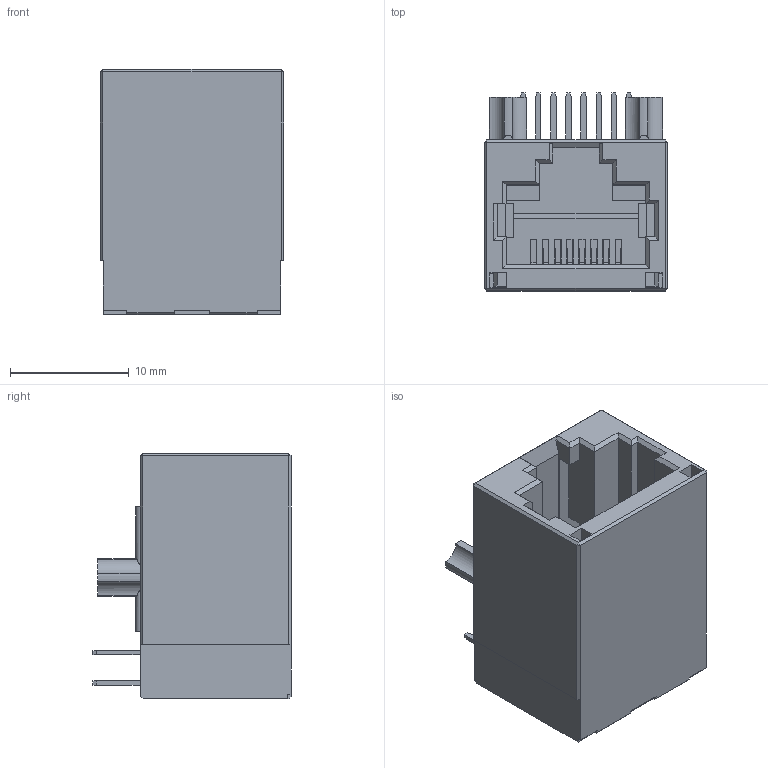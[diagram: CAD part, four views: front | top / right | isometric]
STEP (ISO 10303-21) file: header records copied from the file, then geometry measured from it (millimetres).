
FILE_DESCRIPTION((''),'2;1');
FILE_NAME('DGKYD111B002IWA1D_ASM','2023-11-13T10:07:12',('Administrator'),(''),'CREO PARAMETRIC BY PTC INC, 2019010','CREO PARAMETRIC BY PTC INC, 2019010','');
FILE_SCHEMA(('CONFIG_CONTROL_DESIGN'));
Length unit declared in the file: millimetre
Products named in the file (19): MSBR-18; MSBR-17; MSBR-16; MSBR-15; MSBR-14; MSBR-13; MSBR-12; MSBR-11; MSBR-10; MSBR-9; MSBR-8; MSBR-7; MSBR-6; MSBR-5; MSBR-4; MSBR-3; MSBR-2; MSBR-1; DGKYD111B002IWA1D_ASM
Assembly tree (18 placements, depth 2):
  DGKYD111B002IWA1D_ASM
    MSBR-18
    MSBR-17
    MSBR-16
    MSBR-15
    MSBR-14
    MSBR-13
    MSBR-12
    MSBR-11
    MSBR-10
    MSBR-9
    MSBR-8
    MSBR-7
    MSBR-6
    MSBR-5
    MSBR-4
    MSBR-3
    MSBR-2
    MSBR-1
Bounding box: 15.45 x 16.7 x 20.65 mm (x, y, z)
Volume: 2161.3 mm3; surface area: 4571 mm2
Topology: 18 solids, 18 shells, 842 faces, 2467 edges, 1630 vertices
Faces by surface type: plane 688, cylinder 106, extrusion 48
Entity records: 30904 total; most frequent: CARTESIAN_POINT 8132, ORIENTED_EDGE 4934, DIRECTION 4284, EDGE_CURVE 2467, VECTOR 2116, LINE 2068, VERTEX_POINT 1630, AXIS2_PLACEMENT_3D 1084
